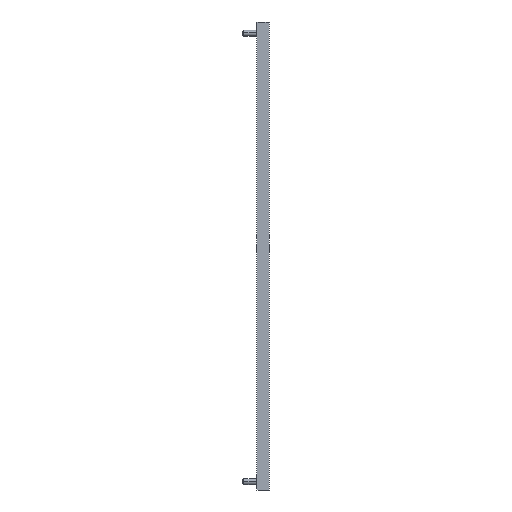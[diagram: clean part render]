
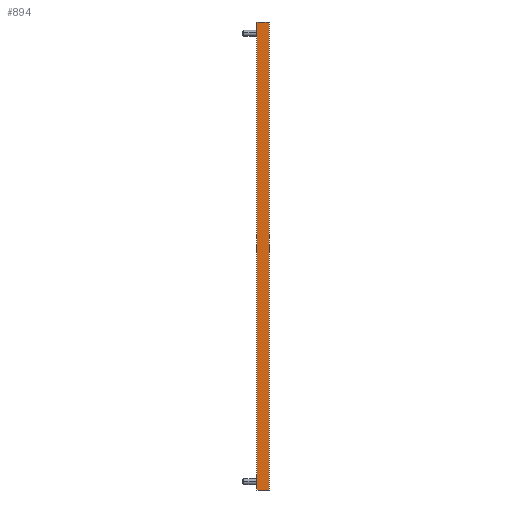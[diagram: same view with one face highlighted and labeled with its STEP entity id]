
A CAD part, left-side view. The second image highlights one B-rep face of the part: STEP entity #894.
In plain terms, the highlighted planar face has unit normal (-1, 0, 0).
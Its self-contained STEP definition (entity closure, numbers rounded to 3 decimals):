
#82 = CARTESIAN_POINT ( 'NONE',  ( -8., 12.5, 479. ) ) ;
#95 = VECTOR ( 'NONE', #2341, 1000. ) ;
#118 = VERTEX_POINT ( 'NONE', #563 ) ;
#128 = EDGE_CURVE ( 'NONE', #2064, #2375, #842, .T. ) ;
#136 = LINE ( 'NONE', #644, #1100 ) ;
#165 = PLANE ( 'NONE',  #520 ) ;
#279 = CARTESIAN_POINT ( 'NONE',  ( -8., 3.2, 0. ) ) ;
#406 = DIRECTION ( 'NONE',  ( 0., 0., 1. ) ) ;
#449 = DIRECTION ( 'NONE',  ( 0., 1., 0. ) ) ;
#520 = AXIS2_PLACEMENT_3D ( 'NONE', #1442, #1877, #2214 ) ;
#557 = VECTOR ( 'NONE', #700, 1000. ) ;
#563 = CARTESIAN_POINT ( 'NONE',  ( -8., 0., 479. ) ) ;
#568 = ORIENTED_EDGE ( 'NONE', *, *, #1525, .T. ) ;
#589 = ORIENTED_EDGE ( 'NONE', *, *, #2816, .T. ) ;
#602 = CARTESIAN_POINT ( 'NONE',  ( -8., 0., 0. ) ) ;
#644 = CARTESIAN_POINT ( 'NONE',  ( -8., 0., 0. ) ) ;
#689 = VECTOR ( 'NONE', #1023, 1000. ) ;
#700 = DIRECTION ( 'NONE',  ( 0., -1., 0. ) ) ;
#762 = CARTESIAN_POINT ( 'NONE',  ( -8., 12.5, 479. ) ) ;
#774 = VECTOR ( 'NONE', #449, 1000. ) ;
#784 = LINE ( 'NONE', #1327, #95 ) ;
#835 = LINE ( 'NONE', #853, #1883 ) ;
#842 = LINE ( 'NONE', #82, #689 ) ;
#844 = ORIENTED_EDGE ( 'NONE', *, *, #1001, .F. ) ;
#853 = CARTESIAN_POINT ( 'NONE',  ( -8., 0., 479. ) ) ;
#854 = EDGE_CURVE ( 'NONE', #1728, #3111, #784, .T. ) ;
#894 = ADVANCED_FACE ( 'NONE', ( #1607 ), #165, .T. ) ;
#1001 = EDGE_CURVE ( 'NONE', #1728, #2064, #3195, .T. ) ;
#1023 = DIRECTION ( 'NONE',  ( 0., -1., 0. ) ) ;
#1100 = VECTOR ( 'NONE', #1662, 1000. ) ;
#1327 = CARTESIAN_POINT ( 'NONE',  ( -8., 0., 0. ) ) ;
#1342 = DIRECTION ( 'NONE',  ( 0., 1., 0. ) ) ;
#1383 = CARTESIAN_POINT ( 'NONE',  ( -8., 12.5, 479. ) ) ;
#1442 = CARTESIAN_POINT ( 'NONE',  ( -8., 0., 479. ) ) ;
#1525 = EDGE_CURVE ( 'NONE', #1867, #2375, #1711, .T. ) ;
#1565 = DIRECTION ( 'NONE',  ( 0., 0., 1. ) ) ;
#1607 = FACE_OUTER_BOUND ( 'NONE', #2898, .T. ) ;
#1662 = DIRECTION ( 'NONE',  ( 0., -1., 0. ) ) ;
#1711 = LINE ( 'NONE', #3013, #774 ) ;
#1725 = EDGE_CURVE ( 'NONE', #118, #1867, #2576, .T. ) ;
#1728 = VERTEX_POINT ( 'NONE', #2354 ) ;
#1814 = ORIENTED_EDGE ( 'NONE', *, *, #2500, .T. ) ;
#1847 = VECTOR ( 'NONE', #406, 1000. ) ;
#1867 = VERTEX_POINT ( 'NONE', #1910 ) ;
#1875 = ORIENTED_EDGE ( 'NONE', *, *, #1725, .T. ) ;
#1877 = DIRECTION ( 'NONE',  ( -1., 0., 0. ) ) ;
#1883 = VECTOR ( 'NONE', #1565, 1000. ) ;
#1899 = EDGE_CURVE ( 'NONE', #2173, #2924, #136, .T. ) ;
#1910 = CARTESIAN_POINT ( 'NONE',  ( -8., 3.2, 479. ) ) ;
#1963 = LINE ( 'NONE', #2963, #557 ) ;
#1985 = CARTESIAN_POINT ( 'NONE',  ( -8., 9.3, 479. ) ) ;
#2064 = VERTEX_POINT ( 'NONE', #762 ) ;
#2173 = VERTEX_POINT ( 'NONE', #279 ) ;
#2214 = DIRECTION ( 'NONE',  ( 0., 0., 1. ) ) ;
#2271 = CARTESIAN_POINT ( 'NONE',  ( -8., 9.3, 0. ) ) ;
#2289 = ORIENTED_EDGE ( 'NONE', *, *, #854, .T. ) ;
#2341 = DIRECTION ( 'NONE',  ( 0., -1., 0. ) ) ;
#2354 = CARTESIAN_POINT ( 'NONE',  ( -8., 12.5, 0. ) ) ;
#2375 = VERTEX_POINT ( 'NONE', #1985 ) ;
#2500 = EDGE_CURVE ( 'NONE', #2924, #118, #835, .T. ) ;
#2555 = VECTOR ( 'NONE', #1342, 1000. ) ;
#2576 = LINE ( 'NONE', #2589, #2555 ) ;
#2589 = CARTESIAN_POINT ( 'NONE',  ( -8., 0., 479. ) ) ;
#2728 = ORIENTED_EDGE ( 'NONE', *, *, #128, .F. ) ;
#2816 = EDGE_CURVE ( 'NONE', #3111, #2173, #1963, .T. ) ;
#2898 = EDGE_LOOP ( 'NONE', ( #844, #2289, #589, #3244, #1814, #1875, #568, #2728 ) ) ;
#2924 = VERTEX_POINT ( 'NONE', #602 ) ;
#2963 = CARTESIAN_POINT ( 'NONE',  ( -8., 0., 0. ) ) ;
#3013 = CARTESIAN_POINT ( 'NONE',  ( -8., 0., 479. ) ) ;
#3111 = VERTEX_POINT ( 'NONE', #2271 ) ;
#3195 = LINE ( 'NONE', #1383, #1847 ) ;
#3244 = ORIENTED_EDGE ( 'NONE', *, *, #1899, .T. ) ;
